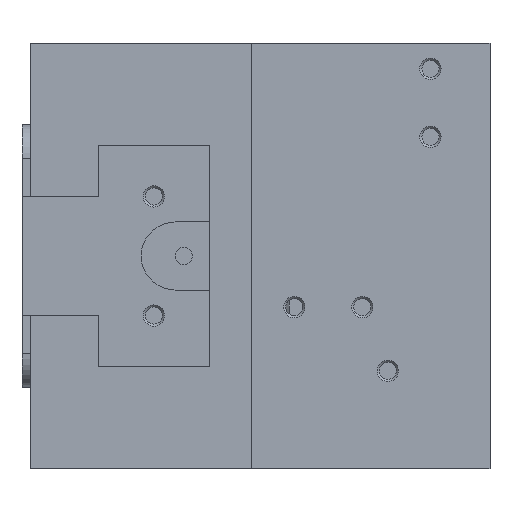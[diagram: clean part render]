
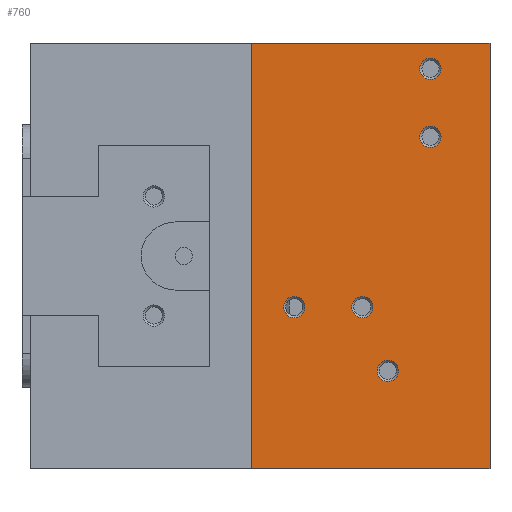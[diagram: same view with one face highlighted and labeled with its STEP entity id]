
A CAD part, left-side view. The second image highlights one B-rep face of the part: STEP entity #760.
In plain terms, the highlighted planar face has unit normal (-1, 0, 0).
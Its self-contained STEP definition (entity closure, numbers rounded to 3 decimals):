
#760 = ADVANCED_FACE( '', ( #1693, #1694, #1695, #1696, #1697, #1698 ), #1699, .F. );
#1693 = FACE_BOUND( '', #2785, .T. );
#1694 = FACE_BOUND( '', #2786, .T. );
#1695 = FACE_OUTER_BOUND( '', #2787, .T. );
#1696 = FACE_BOUND( '', #2788, .T. );
#1697 = FACE_BOUND( '', #2789, .T. );
#1698 = FACE_BOUND( '', #2790, .T. );
#1699 = PLANE( '', #2791 );
#2785 = EDGE_LOOP( '', ( #4599 ) );
#2786 = EDGE_LOOP( '', ( #4600 ) );
#2787 = EDGE_LOOP( '', ( #4601, #4602, #4603, #4604 ) );
#2788 = EDGE_LOOP( '', ( #4605 ) );
#2789 = EDGE_LOOP( '', ( #4606 ) );
#2790 = EDGE_LOOP( '', ( #4607 ) );
#2791 = AXIS2_PLACEMENT_3D( '', #4608, #4609, #4610 );
#4599 = ORIENTED_EDGE( '', *, *, #5625, .T. );
#4600 = ORIENTED_EDGE( '', *, *, #6101, .T. );
#4601 = ORIENTED_EDGE( '', *, *, #6102, .T. );
#4602 = ORIENTED_EDGE( '', *, *, #5461, .F. );
#4603 = ORIENTED_EDGE( '', *, *, #6103, .F. );
#4604 = ORIENTED_EDGE( '', *, *, #5645, .T. );
#4605 = ORIENTED_EDGE( '', *, *, #6104, .T. );
#4606 = ORIENTED_EDGE( '', *, *, #6105, .T. );
#4607 = ORIENTED_EDGE( '', *, *, #5865, .T. );
#4608 = CARTESIAN_POINT( '', ( -40., 28., 25. ) );
#4609 = DIRECTION( '', ( 1., 0., 0. ) );
#4610 = DIRECTION( '', ( 0., 0., -1. ) );
#5461 = EDGE_CURVE( '', #6308, #6303, #6310, .T. );
#5625 = EDGE_CURVE( '', #6594, #6594, #6595, .T. );
#5645 = EDGE_CURVE( '', #6629, #6627, #6630, .T. );
#5865 = EDGE_CURVE( '', #6971, #6971, #6972, .T. );
#6101 = EDGE_CURVE( '', #7318, #7318, #7319, .T. );
#6102 = EDGE_CURVE( '', #6627, #6303, #7320, .T. );
#6103 = EDGE_CURVE( '', #6629, #6308, #7321, .T. );
#6104 = EDGE_CURVE( '', #7322, #7322, #7323, .T. );
#6105 = EDGE_CURVE( '', #7324, #7324, #7325, .T. );
#6303 = VERTEX_POINT( '', #7563 );
#6308 = VERTEX_POINT( '', #7570 );
#6310 = LINE( '', #7573, #7574 );
#6594 = VERTEX_POINT( '', #8156 );
#6595 = CIRCLE( '', #8157, 1.25 );
#6627 = VERTEX_POINT( '', #8198 );
#6629 = VERTEX_POINT( '', #8201 );
#6630 = LINE( '', #8202, #8203 );
#6971 = VERTEX_POINT( '', #8716 );
#6972 = CIRCLE( '', #8717, 1.25 );
#7318 = VERTEX_POINT( '', #9246 );
#7319 = CIRCLE( '', #9247, 1.25 );
#7320 = LINE( '', #9248, #9249 );
#7321 = LINE( '', #9250, #9251 );
#7322 = VERTEX_POINT( '', #9252 );
#7323 = CIRCLE( '', #9253, 1.25 );
#7324 = VERTEX_POINT( '', #9254 );
#7325 = CIRCLE( '', #9255, 1.25 );
#7563 = CARTESIAN_POINT( '', ( -40., 0., -25. ) );
#7570 = CARTESIAN_POINT( '', ( -40., 0., 25. ) );
#7573 = CARTESIAN_POINT( '', ( -40., 0., 25. ) );
#7574 = VECTOR( '', #9611, 1000. );
#8156 = CARTESIAN_POINT( '', ( -40., 7., 12.75 ) );
#8157 = AXIS2_PLACEMENT_3D( '', #9841, #9842, #9843 );
#8198 = CARTESIAN_POINT( '', ( -40., 28., -25. ) );
#8201 = CARTESIAN_POINT( '', ( -40., 28., 25. ) );
#8202 = CARTESIAN_POINT( '', ( -40., 28., 25. ) );
#8203 = VECTOR( '', #9866, 1000. );
#8716 = CARTESIAN_POINT( '', ( -40., 7., 20.75 ) );
#8717 = AXIS2_PLACEMENT_3D( '', #10132, #10133, #10134 );
#9246 = CARTESIAN_POINT( '', ( -40., 23., -7.25 ) );
#9247 = AXIS2_PLACEMENT_3D( '', #10418, #10419, #10420 );
#9248 = CARTESIAN_POINT( '', ( -40., 28., -25. ) );
#9249 = VECTOR( '', #10421, 1000. );
#9250 = CARTESIAN_POINT( '', ( -40., 28., 25. ) );
#9251 = VECTOR( '', #10422, 1000. );
#9252 = CARTESIAN_POINT( '', ( -40., 15., -7.25 ) );
#9253 = AXIS2_PLACEMENT_3D( '', #10423, #10424, #10425 );
#9254 = CARTESIAN_POINT( '', ( -40., 12., -14.75 ) );
#9255 = AXIS2_PLACEMENT_3D( '', #10426, #10427, #10428 );
#9611 = DIRECTION( '', ( 0., 0., -1. ) );
#9841 = CARTESIAN_POINT( '', ( -40., 7., 14. ) );
#9842 = DIRECTION( '', ( 1., 0., 0. ) );
#9843 = DIRECTION( '', ( 0., 0., -1. ) );
#9866 = DIRECTION( '', ( 0., 0., -1. ) );
#10132 = CARTESIAN_POINT( '', ( -40., 7., 22. ) );
#10133 = DIRECTION( '', ( 1., 0., 0. ) );
#10134 = DIRECTION( '', ( 0., 0., -1. ) );
#10418 = CARTESIAN_POINT( '', ( -40., 23., -6. ) );
#10419 = DIRECTION( '', ( 1., 0., 0. ) );
#10420 = DIRECTION( '', ( 0., 0., -1. ) );
#10421 = DIRECTION( '', ( 0., -1., 0. ) );
#10422 = DIRECTION( '', ( 0., -1., 0. ) );
#10423 = CARTESIAN_POINT( '', ( -40., 15., -6. ) );
#10424 = DIRECTION( '', ( 1., 0., 0. ) );
#10425 = DIRECTION( '', ( 0., 0., -1. ) );
#10426 = CARTESIAN_POINT( '', ( -40., 12., -13.5 ) );
#10427 = DIRECTION( '', ( 1., 0., 0. ) );
#10428 = DIRECTION( '', ( 0., 0., -1. ) );
